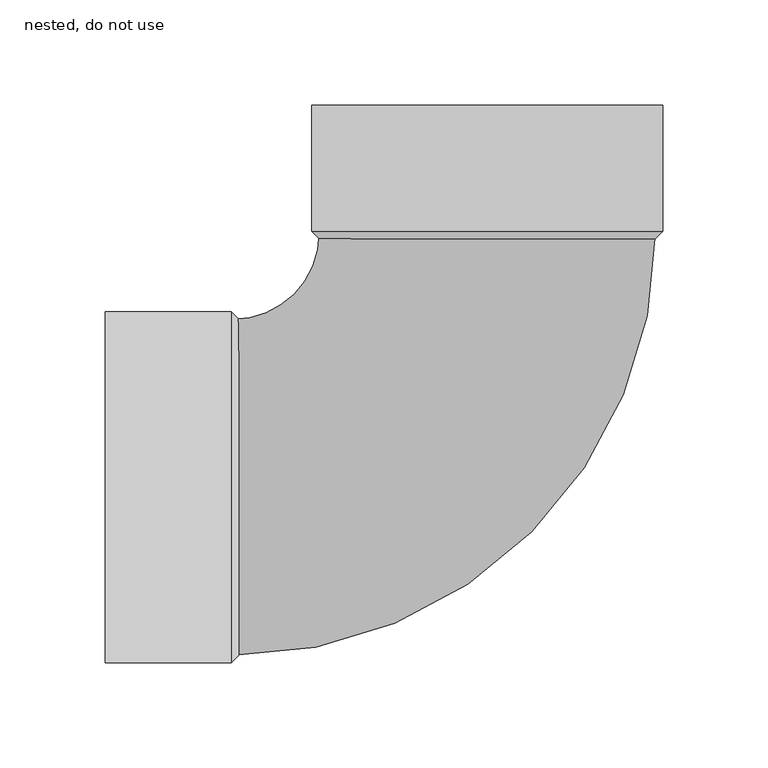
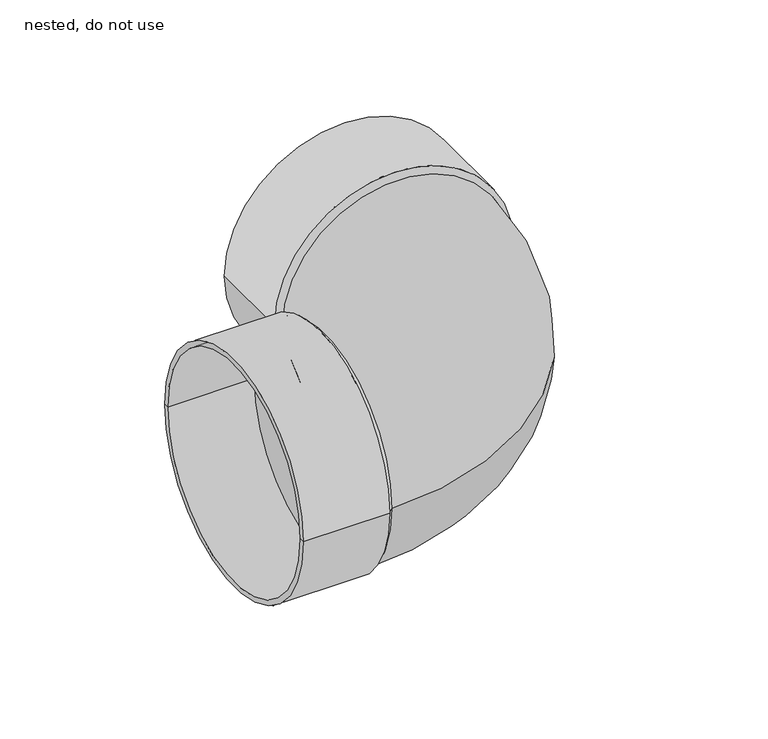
"""IFC4 building model written with IfcOpenShell, lengths in millimetres: pipe fitting geometry, NLRS_52_PIF_UN_Vacurain Flex bocht 2LV_SH_Dyka : nested, do not use."""

from ifc_helpers import new_model, si_unit, point, frame, origin, place, context, project, spatial, polyline, circle_curve, ellipse_curve, trimmed, source, transform, mapped, element, save
from ifc_brep_helpers import plane_surface, cylinder_surface, revolved_surface, advanced_brep


def nested_do_not_use_c42076f1(model_context):
    return source(origin(), model_context, "Body", "AdvancedBrep", [
        advanced_brep(
        [(-182.0, 83.6, 0.0), (-182.0, -83.6, 0.0), (-182.0, -80.0, 0.0), (-182.0, 80.0, 0.0), (-122.0, 83.6, 0.0), (-122.0, -83.6, 0.0), (-118.4, 80.0, 0.0), (-118.4, -80.0, 0.0)],
        [
            (0, 1, circle_curve(frame((-182.0, 0.0, 0.0), z_axis=(-1.0, 0.0, 0.0), x_axis=(0.0, -1.0, 0.0)), 83.6)),
            (1, 2),
            (2, 3, circle_curve(frame((-182.0, 0.0, 0.0), z_axis=(1.0, 0.0, 0.0), x_axis=(0.0, -1.0, 0.0)), 80.0)),
            (3, 0),
            (1, 0, circle_curve(frame((-182.0, 0.0, 0.0), z_axis=(-1.0, 0.0, 0.0), x_axis=(0.0, -1.0, 0.0)), 83.6)),
            (3, 2, circle_curve(frame((-182.0, 0.0, 0.0), z_axis=(1.0, 0.0, 0.0), x_axis=(0.0, -1.0, 0.0)), 80.0)),
            (4, 5, circle_curve(frame((-122.0, 0.0, 0.0), z_axis=(-1.0, 0.0, 0.0), x_axis=(0.0, -1.0, 0.0)), 83.6)),
            (5, 1),
            (0, 4),
            (5, 4, circle_curve(frame((-122.0, 0.0, 0.0), z_axis=(-1.0, 0.0, 0.0), x_axis=(0.0, -1.0, 0.0)), 83.6)),
            (6, 7, circle_curve(frame((-118.4, 0.0, 0.0), z_axis=(-1.0, 0.0, 0.0), x_axis=(0.0, -1.0, 0.0)), 80.0)),
            (7, 5),
            (4, 6),
            (7, 6, circle_curve(frame((-118.4, 0.0, 0.0), z_axis=(-1.0, 0.0, 0.0), x_axis=(0.0, -1.0, 0.0)), 80.0)),
            (2, 7),
            (6, 3),
        ],
        [
            plane_surface(frame((-182.0, 0.0, 0.0), z_axis=(-1.0, 0.0, 0.0), x_axis=(0.0, -1.0, 0.0))),
            cylinder_surface(frame((-122.0, 0.0, 0.0), z_axis=(1.0, 0.0, 0.0), x_axis=(0.0, -1.0, 0.0)), 83.6),
            revolved_surface(polyline([(-122.0, -83.6, 0.0), (-118.4, -80.0, 0.0)]), (-122.0, 0.0, 0.0), (1.0, 0.0, 0.0)),
            revolved_surface(polyline([(-118.4, -80.0, 0.0), (-182.0, -80.0, 0.0)]), (-122.0, 0.0, 0.0), (1.0, 0.0, 0.0)),
        ],
        [
            (0, [[1, 2, 3, 4]]),
            (0, [[5, -4, 6, -2]]),
            (1, [[7, 8, -1, 9]]),
            (1, [[10, -9, -5, -8]]),
            (2, [[11, 12, -7, 13]]),
            (2, [[14, -13, -10, -12]]),
            (3, [[-3, 15, -11, 16]]),
            (3, [[-6, -16, -14, -15]]),
        ],
    ),
        advanced_brep(
        [(83.6, 182.0, 0.0), (-83.6, 182.0, 0.0), (-80.0, 182.0, 0.0), (80.0, 182.0, 0.0), (83.6, 122.0, 0.0), (-83.6, 122.0, 0.0), (80.0, 118.4, 0.0), (-80.0, 118.4, 0.0)],
        [
            (0, 1, circle_curve(frame((0.0, 182.0, 0.0), z_axis=(0.0, 1.0, 0.0), x_axis=(-1.0, 0.0, 0.0)), 83.6)),
            (1, 2),
            (2, 3, circle_curve(frame((0.0, 182.0, 0.0), z_axis=(0.0, -1.0, 0.0), x_axis=(-1.0, 0.0, 0.0)), 80.0)),
            (3, 0),
            (1, 0, circle_curve(frame((0.0, 182.0, 0.0), z_axis=(0.0, 1.0, 0.0), x_axis=(-1.0, 0.0, 0.0)), 83.6)),
            (3, 2, circle_curve(frame((0.0, 182.0, 0.0), z_axis=(0.0, -1.0, 0.0), x_axis=(-1.0, 0.0, 0.0)), 80.0)),
            (4, 5, circle_curve(frame((0.0, 122.0, 0.0), z_axis=(0.0, 1.0, 0.0), x_axis=(-1.0, 0.0, 0.0)), 83.6)),
            (5, 1),
            (0, 4),
            (5, 4, circle_curve(frame((0.0, 122.0, 0.0), z_axis=(0.0, 1.0, 0.0), x_axis=(-1.0, 0.0, 0.0)), 83.6)),
            (6, 7, circle_curve(frame((0.0, 118.4, 0.0), z_axis=(0.0, 1.0, 0.0), x_axis=(-1.0, 0.0, 0.0)), 80.0)),
            (7, 5),
            (4, 6),
            (7, 6, circle_curve(frame((0.0, 118.4, 0.0), z_axis=(0.0, 1.0, 0.0), x_axis=(-1.0, 0.0, 0.0)), 80.0)),
            (2, 7),
            (6, 3),
        ],
        [
            plane_surface(frame((0.0, 182.0, 0.0), z_axis=(0.0, 1.0, 0.0), x_axis=(-1.0, 0.0, 0.0))),
            cylinder_surface(frame((0.0, 122.0, 0.0), z_axis=(0.0, -1.0, 0.0), x_axis=(-1.0, 0.0, 0.0)), 83.6),
            revolved_surface(polyline([(-83.6, 122.0, 0.0), (-80.0, 118.4, 0.0)]), (0.0, 122.0, 0.0), (0.0, -1.0, 0.0)),
            revolved_surface(polyline([(-80.0, 118.4, 0.0), (-80.0, 182.0, 0.0)]), (0.0, 122.0, 0.0), (0.0, -1.0, 0.0)),
        ],
        [
            (0, [[1, 2, 3, 4]]),
            (0, [[5, -4, 6, -2]]),
            (1, [[7, 8, -1, 9]]),
            (1, [[10, -9, -5, -8]]),
            (2, [[11, 12, -7, 13]]),
            (2, [[14, -13, -10, -12]]),
            (3, [[-3, 15, -11, 16]]),
            (3, [[-6, -16, -14, -15]]),
        ],
    ),
        advanced_brep(
        [(-122.0, -80.0, 0.0), (-122.0, 80.0, 0.0), (-121.0, -80.0, 0.0), (-121.0, 80.0, 0.0), (-80.0, 121.0, 0.0), (80.0, 121.0, 0.0), (80.0, 122.0, 0.0), (-80.0, 122.0, 0.0)],
        [
            (0, 1, circle_curve(frame((-122.0, 0.0, 0.0), z_axis=(-1.0, 0.0, 0.0), x_axis=(0.0, 1.0, 0.0)), 80.0)),
            (1, 0, circle_curve(frame((-122.0, 0.0, 0.0), z_axis=(-1.0, 0.0, 0.0), x_axis=(0.0, 1.0, 0.0)), 80.0)),
            (0, 2),
            (2, 3, circle_curve(frame((-121.0, 0.0, 0.0), z_axis=(-1.0, 0.0, 0.0), x_axis=(0.0, 1.0, 0.0)), 80.0)),
            (3, 1),
            (3, 2, circle_curve(frame((-121.0, 0.0, 0.0), z_axis=(-1.0, 0.0, 0.0), x_axis=(0.0, 1.0, 0.0)), 80.0)),
            (4, 3, circle_curve(frame((-121.0, 121.0, 0.0), z_axis=(0.0, 0.0, -1.0), x_axis=(0.0, -1.0, 0.0)), 41.0)),
            (2, 5, circle_curve(frame((-121.0, 121.0, 0.0), z_axis=(0.0, 0.0, 1.0), x_axis=(0.0, -1.0, 0.0)), 201.0)),
            (5, 4, circle_curve(frame((0.0, 121.0, 0.0), z_axis=(0.0, -1.0, 0.0), x_axis=(-1.0, 0.0, 0.0)), 80.0)),
            (4, 5, circle_curve(frame((0.0, 121.0, 0.0), z_axis=(0.0, -1.0, 0.0), x_axis=(-1.0, 0.0, 0.0)), 80.0)),
            (6, 7, circle_curve(frame((0.0, 122.0, 0.0), z_axis=(0.0, 1.0, 0.0), x_axis=(-1.0, 0.0, 0.0)), 80.0)),
            (7, 6, circle_curve(frame((0.0, 122.0, 0.0), z_axis=(0.0, 1.0, 0.0), x_axis=(-1.0, 0.0, 0.0)), 80.0)),
            (5, 6),
            (7, 4),
        ],
        [
            plane_surface(frame((-122.0, 0.0, 0.0), z_axis=(-1.0, 0.0, 0.0), x_axis=(0.0, 0.0, 1.0))),
            cylinder_surface(frame((-122.0, 0.0, 0.0), z_axis=(-1.0, 0.0, 0.0), x_axis=(0.0, 1.0, 0.0)), 80.0),
            revolved_surface(trimmed(ellipse_curve(frame((-121.0, 0.0, 0.0), z_axis=(-1.0, 0.0, 0.0), x_axis=(0.0, 1.0, 0.0)), 80.0, 80.0), [point((-121.0, -80.0, 0.0))], [point((-121.0, 80.0, 0.0))], True, "CARTESIAN"), (-121.0, 121.0, 0.0), (0.0, 0.0, 1.0)),
            revolved_surface(trimmed(ellipse_curve(frame((-121.0, 0.0, 0.0), z_axis=(-1.0, 0.0, 0.0), x_axis=(0.0, 1.0, 0.0)), 80.0, 80.0), [point((-121.0, 80.0, 0.0))], [point((-121.0, -80.0, 0.0))], True, "CARTESIAN"), (-121.0, 121.0, 0.0), (0.0, 0.0, 1.0)),
            plane_surface(frame((0.0, 122.0, 0.0), z_axis=(0.0, 1.0, 0.0), x_axis=(0.0, 0.0, 1.0))),
            cylinder_surface(frame((0.0, 121.0, 0.0), z_axis=(0.0, -1.0, 0.0), x_axis=(-1.0, 0.0, 0.0)), 80.0),
        ],
        [
            (0, [[1, 2]]),
            (1, [[-1, 3, 4, 5]]),
            (1, [[-2, -5, 6, -3]]),
            (2, [[7, -4, 8, 9]]),
            (3, [[-8, -6, -7, 10]]),
            (4, [[11, 12]]),
            (5, [[-9, 13, -12, 14]]),
            (5, [[-10, -14, -11, -13]]),
        ],
    ),
    ])


if __name__ == "__main__":
    model = new_model("IFC4")
    model_context = context("Model", 3, world=origin())
    ifc_project = project(units=[si_unit("LENGTHUNIT", "METRE", prefix="MILLI")], contexts=[model_context])
    site = spatial("IfcSite", under=ifc_project)
    building = spatial("IfcBuilding", under=site)
    placement = place(None, origin())
    nested_do_not_use_shape = nested_do_not_use_c42076f1(model_context)
    element("IfcPipeFitting", 1, ObjectType="NLRS_52_PIF_UN_Vacurain Flex bocht 2LV_SH_Dyka : nested, do not use", at=placement, inside=building, context=model_context, shape_type="MappedRepresentation", body=[
        mapped(nested_do_not_use_shape, transform((0.0, 0.0, 0.0), x_axis=(1.0, 0.0, 0.0), y_axis=(0.0, 1.0, 0.0), z_axis=(0.0, 0.0, 1.0))),
    ])
    save(model, "model.ifc")
